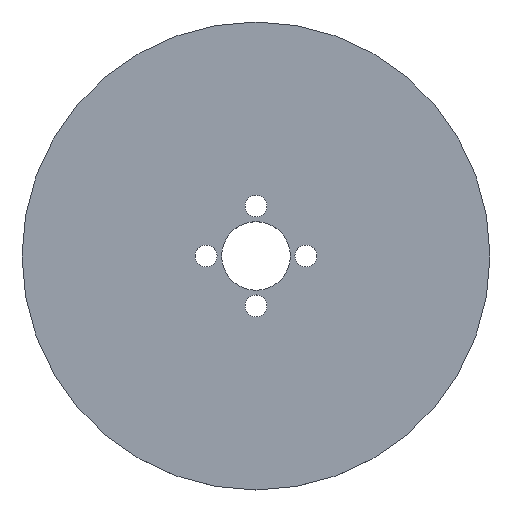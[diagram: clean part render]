
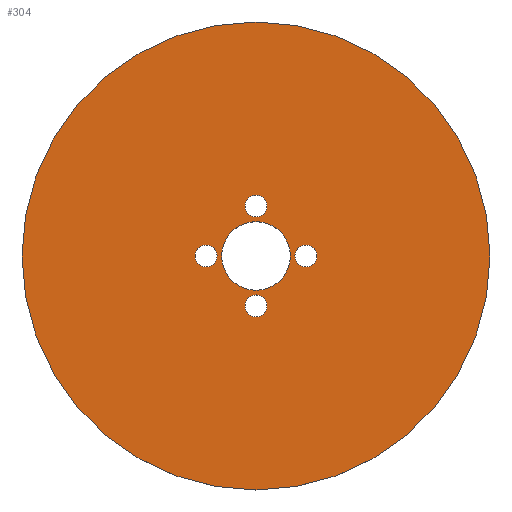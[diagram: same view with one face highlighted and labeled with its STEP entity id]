
A CAD part, top view. The second image highlights one B-rep face of the part: STEP entity #304.
In plain terms, the highlighted planar face has unit normal (0, 0, 1).
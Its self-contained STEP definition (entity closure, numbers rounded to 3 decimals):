
#40=CARTESIAN_POINT('Vertex',(6.25,0.,0.75)) ;
#45=CARTESIAN_POINT('Axis2P3D Location',(8.,0.,0.75)) ;
#49=CARTESIAN_POINT('Vertex',(9.75,0.,0.75)) ;
#192=CARTESIAN_POINT('Axis2P3D Location',(8.,0.,0.75)) ;
#205=CARTESIAN_POINT('Axis2P3D Location',(0.,0.,0.75)) ;
#210=CARTESIAN_POINT('Axis2P3D Location',(0.,0.,0.75)) ;
#214=CARTESIAN_POINT('Vertex',(37.5,0.,0.75)) ;
#216=CARTESIAN_POINT('Vertex',(-37.5,0.,0.75)) ;
#219=CARTESIAN_POINT('Axis2P3D Location',(0.,0.,0.75)) ;
#232=CARTESIAN_POINT('Axis2P3D Location',(0.,0.,0.75)) ;
#236=CARTESIAN_POINT('Vertex',(-5.5,0.,0.75)) ;
#238=CARTESIAN_POINT('Vertex',(5.5,0.,0.75)) ;
#241=CARTESIAN_POINT('Axis2P3D Location',(0.,0.,0.75)) ;
#250=CARTESIAN_POINT('Axis2P3D Location',(0.,-8.,0.75)) ;
#254=CARTESIAN_POINT('Vertex',(0.,-6.25,0.75)) ;
#256=CARTESIAN_POINT('Vertex',(0.,-9.75,0.75)) ;
#259=CARTESIAN_POINT('Axis2P3D Location',(0.,-8.,0.75)) ;
#268=CARTESIAN_POINT('Axis2P3D Location',(-8.,0.,0.75)) ;
#272=CARTESIAN_POINT('Vertex',(-6.25,0.,0.75)) ;
#274=CARTESIAN_POINT('Vertex',(-9.75,0.,0.75)) ;
#277=CARTESIAN_POINT('Axis2P3D Location',(-8.,0.,0.75)) ;
#286=CARTESIAN_POINT('Axis2P3D Location',(0.,8.,0.75)) ;
#290=CARTESIAN_POINT('Vertex',(0.,6.25,0.75)) ;
#292=CARTESIAN_POINT('Vertex',(0.,9.75,0.75)) ;
#295=CARTESIAN_POINT('Axis2P3D Location',(0.,8.,0.75)) ;
#46=DIRECTION('Axis2P3D Direction',(0.,-0.,1.)) ;
#193=DIRECTION('Axis2P3D Direction',(0.,-0.,1.)) ;
#206=DIRECTION('Axis2P3D Direction',(0.,0.,1.)) ;
#207=DIRECTION('Axis2P3D XDirection',(1.,0.,0.)) ;
#211=DIRECTION('Axis2P3D Direction',(0.,0.,1.)) ;
#220=DIRECTION('Axis2P3D Direction',(0.,0.,1.)) ;
#233=DIRECTION('Axis2P3D Direction',(0.,0.,1.)) ;
#242=DIRECTION('Axis2P3D Direction',(0.,0.,1.)) ;
#251=DIRECTION('Axis2P3D Direction',(0.,0.,1.)) ;
#260=DIRECTION('Axis2P3D Direction',(0.,0.,1.)) ;
#269=DIRECTION('Axis2P3D Direction',(0.,0.,1.)) ;
#278=DIRECTION('Axis2P3D Direction',(0.,0.,1.)) ;
#287=DIRECTION('Axis2P3D Direction',(0.,0.,1.)) ;
#296=DIRECTION('Axis2P3D Direction',(0.,0.,1.)) ;
#47=AXIS2_PLACEMENT_3D('Circle Axis2P3D',#45,#46,$) ;
#194=AXIS2_PLACEMENT_3D('Circle Axis2P3D',#192,#193,$) ;
#208=AXIS2_PLACEMENT_3D('Plane Axis2P3D',#205,#206,#207) ;
#212=AXIS2_PLACEMENT_3D('Circle Axis2P3D',#210,#211,$) ;
#221=AXIS2_PLACEMENT_3D('Circle Axis2P3D',#219,#220,$) ;
#234=AXIS2_PLACEMENT_3D('Circle Axis2P3D',#232,#233,$) ;
#243=AXIS2_PLACEMENT_3D('Circle Axis2P3D',#241,#242,$) ;
#252=AXIS2_PLACEMENT_3D('Circle Axis2P3D',#250,#251,$) ;
#261=AXIS2_PLACEMENT_3D('Circle Axis2P3D',#259,#260,$) ;
#270=AXIS2_PLACEMENT_3D('Circle Axis2P3D',#268,#269,$) ;
#279=AXIS2_PLACEMENT_3D('Circle Axis2P3D',#277,#278,$) ;
#288=AXIS2_PLACEMENT_3D('Circle Axis2P3D',#286,#287,$) ;
#297=AXIS2_PLACEMENT_3D('Circle Axis2P3D',#295,#296,$) ;
#48=CIRCLE('generated circle',#47,1.75) ;
#195=CIRCLE('generated circle',#194,1.75) ;
#213=CIRCLE('generated circle',#212,37.5) ;
#222=CIRCLE('generated circle',#221,37.5) ;
#235=CIRCLE('generated circle',#234,5.5) ;
#244=CIRCLE('generated circle',#243,5.5) ;
#253=CIRCLE('generated circle',#252,1.75) ;
#262=CIRCLE('generated circle',#261,1.75) ;
#271=CIRCLE('generated circle',#270,1.75) ;
#280=CIRCLE('generated circle',#279,1.75) ;
#289=CIRCLE('generated circle',#288,1.75) ;
#298=CIRCLE('generated circle',#297,1.75) ;
#209=PLANE('',#208) ;
#231=FACE_BOUND('',#228,.T.) ;
#249=FACE_BOUND('',#246,.T.) ;
#267=FACE_BOUND('',#264,.T.) ;
#285=FACE_BOUND('',#282,.T.) ;
#303=FACE_BOUND('',#300,.T.) ;
#51=EDGE_CURVE('',#41,#50,#48,.T.) ;
#196=EDGE_CURVE('',#50,#41,#195,.T.) ;
#218=EDGE_CURVE('',#215,#217,#213,.T.) ;
#223=EDGE_CURVE('',#217,#215,#222,.T.) ;
#240=EDGE_CURVE('',#237,#239,#235,.T.) ;
#245=EDGE_CURVE('',#239,#237,#244,.T.) ;
#258=EDGE_CURVE('',#255,#257,#253,.T.) ;
#263=EDGE_CURVE('',#257,#255,#262,.T.) ;
#276=EDGE_CURVE('',#273,#275,#271,.T.) ;
#281=EDGE_CURVE('',#275,#273,#280,.T.) ;
#294=EDGE_CURVE('',#291,#293,#289,.T.) ;
#299=EDGE_CURVE('',#293,#291,#298,.T.) ;
#224=EDGE_LOOP('',(#225,#226)) ;
#228=EDGE_LOOP('',(#229,#230)) ;
#246=EDGE_LOOP('',(#247,#248)) ;
#264=EDGE_LOOP('',(#265,#266)) ;
#282=EDGE_LOOP('',(#283,#284)) ;
#300=EDGE_LOOP('',(#301,#302)) ;
#225=ORIENTED_EDGE('',*,*,#218,.T.) ;
#226=ORIENTED_EDGE('',*,*,#223,.T.) ;
#229=ORIENTED_EDGE('',*,*,#196,.F.) ;
#230=ORIENTED_EDGE('',*,*,#51,.F.) ;
#247=ORIENTED_EDGE('',*,*,#240,.F.) ;
#248=ORIENTED_EDGE('',*,*,#245,.F.) ;
#265=ORIENTED_EDGE('',*,*,#258,.F.) ;
#266=ORIENTED_EDGE('',*,*,#263,.F.) ;
#283=ORIENTED_EDGE('',*,*,#276,.F.) ;
#284=ORIENTED_EDGE('',*,*,#281,.F.) ;
#301=ORIENTED_EDGE('',*,*,#294,.F.) ;
#302=ORIENTED_EDGE('',*,*,#299,.F.) ;
#41=VERTEX_POINT('',#40) ;
#50=VERTEX_POINT('',#49) ;
#215=VERTEX_POINT('',#214) ;
#217=VERTEX_POINT('',#216) ;
#237=VERTEX_POINT('',#236) ;
#239=VERTEX_POINT('',#238) ;
#255=VERTEX_POINT('',#254) ;
#257=VERTEX_POINT('',#256) ;
#273=VERTEX_POINT('',#272) ;
#275=VERTEX_POINT('',#274) ;
#291=VERTEX_POINT('',#290) ;
#293=VERTEX_POINT('',#292) ;
#304=ADVANCED_FACE('PartBody',(#227,#231,#249,#267,#285,#303),#209,.T.) ;
#227=FACE_OUTER_BOUND('',#224,.T.) ;
